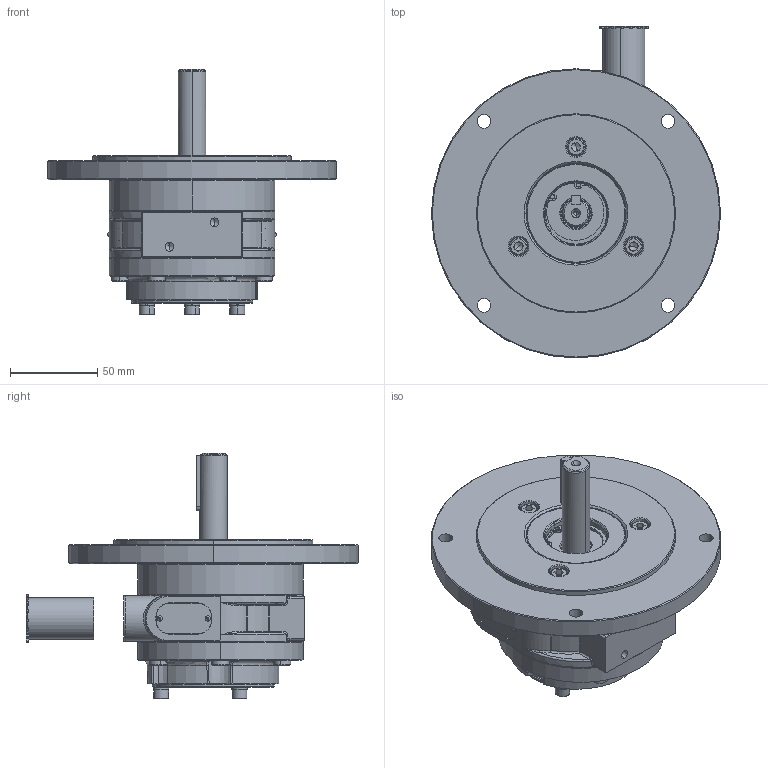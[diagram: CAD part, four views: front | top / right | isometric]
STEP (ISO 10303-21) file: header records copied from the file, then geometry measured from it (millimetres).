
FILE_DESCRIPTION (( 'STEP AP203' ), '1' );
FILE_NAME ('2VMN (Nema)_Solid 29-07-25.STEP', '2025-07-29T09:42:44', ( '' ), ( '' ), 'SwSTEP 2.0', 'SolidWorks 2017', '' );
FILE_SCHEMA (( 'CONFIG_CONTROL_DESIGN' ));
Products named in the file (2): 2VMN (Nema)_Solid 29-07-25
Bounding box: 166 x 190.6 x 140.83 mm (x, y, z)
Volume: 715026.1 mm3; surface area: 218438.3 mm2
Topology: 73 solids, 73 shells, 1955 faces, 4589 edges, 2760 vertices
Faces by surface type: plane 708, cylinder 558, cone 363, torus 236, bspline 78, sphere 12
Entity records: 90293 total; most frequent: CARTESIAN_POINT 44209, DIRECTION 10050, ORIENTED_EDGE 9224, EDGE_CURVE 4612, AXIS2_PLACEMENT_3D 3995, VERTEX_POINT 2842, EDGE_LOOP 2266, CIRCLE 2064
